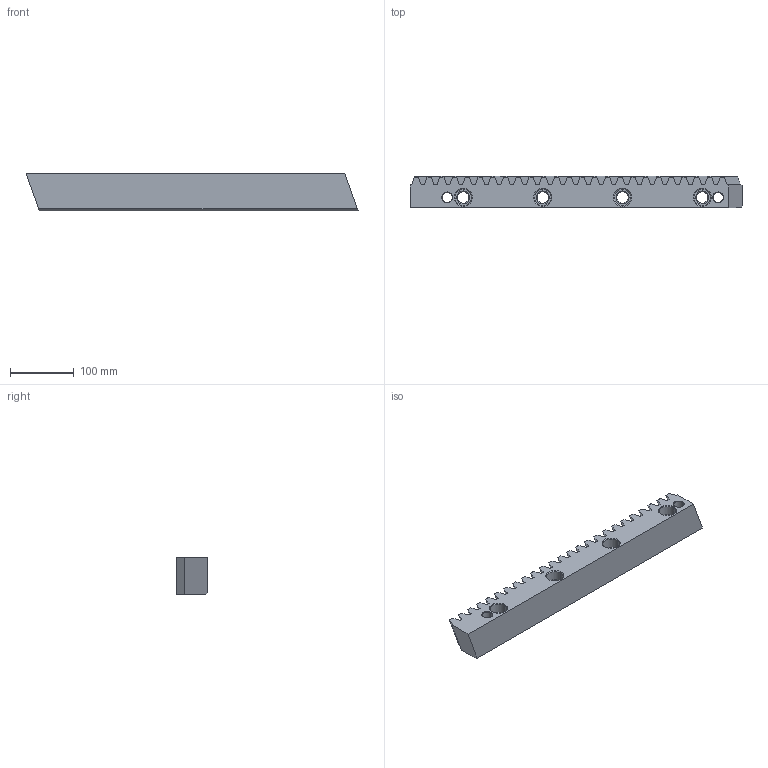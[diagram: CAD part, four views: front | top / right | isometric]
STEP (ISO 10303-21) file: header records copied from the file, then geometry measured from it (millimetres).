
FILE_DESCRIPTION (( 'STEP AP214' ), '1' );
FILE_NAME ('1HR35R060050H.STEP', '2021-12-06T10:04:19', ( '' ), ( '' ), 'SwSTEP 2.0', 'SolidWorks 2021', '' );
FILE_SCHEMA (( 'AUTOMOTIVE_DESIGN' ));
Length unit declared in the file: millimetre
Products named in the file (1): 1HR35R060050H
Bounding box: 520.93 x 49 x 59 mm (x, y, z)
Volume: 1152551.3 mm3; surface area: 151279 mm2
Topology: 1 solids, 1 shells, 301 faces, 865 edges, 570 vertices
Faces by surface type: plane 161, cylinder 120, cone 20
Entity records: 9737 total; most frequent: CARTESIAN_POINT 2337, ORIENTED_EDGE 1730, DIRECTION 1329, EDGE_CURVE 865, VECTOR 605, LINE 605, VERTEX_POINT 570, AXIS2_PLACEMENT_3D 362
